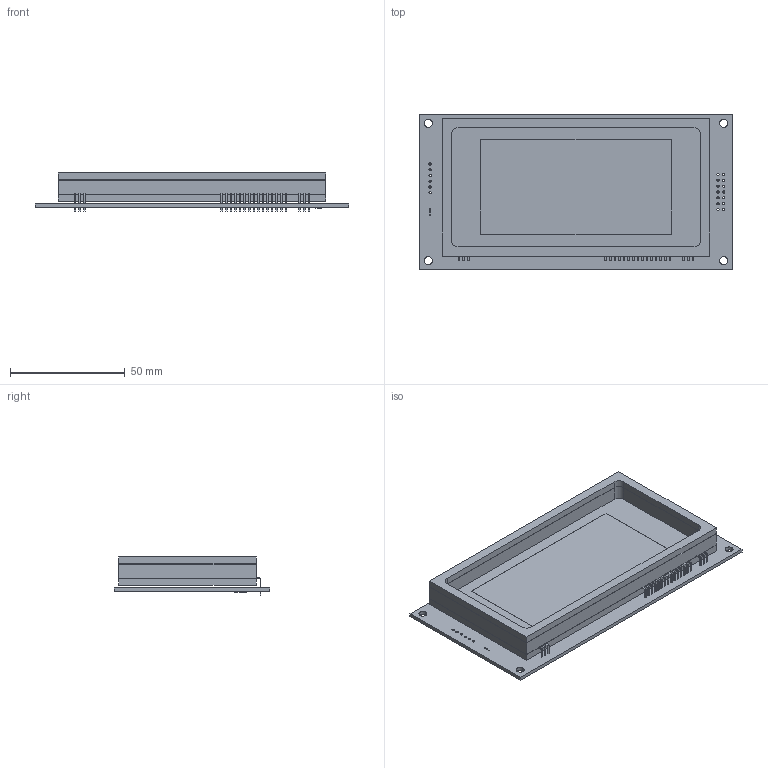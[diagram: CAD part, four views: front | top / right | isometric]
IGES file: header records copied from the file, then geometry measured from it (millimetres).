
Start section:  PTC IGES file: gu128x64f-7000.igs
Global section: file name: gu128x64f-7000.igs; native system: Pro/ENGINEER by Parametric Technology Corporation; preprocessor: 2010280; author: samx; organization: Unknown; date: 20140522.113720; units: millimetre
Bounding box: 137 x 68 x 16.6 mm (x, y, z)
Volume: 48594.4 mm3; surface area: 46280 mm2
Topology: 2 solids, 2 shells, 407 faces, 1272 edges, 834 vertices
Faces by surface type: bspline 303, revolution 104
